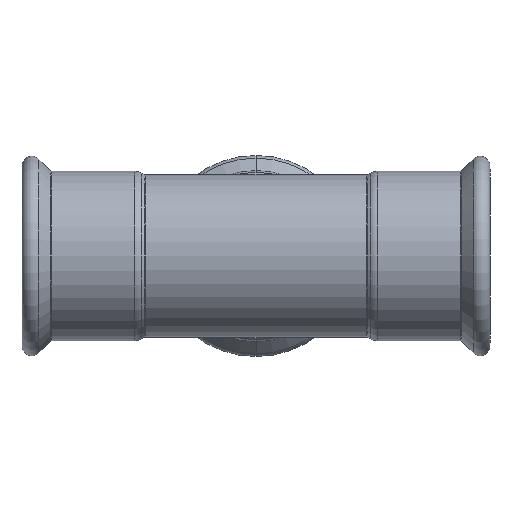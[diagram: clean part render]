
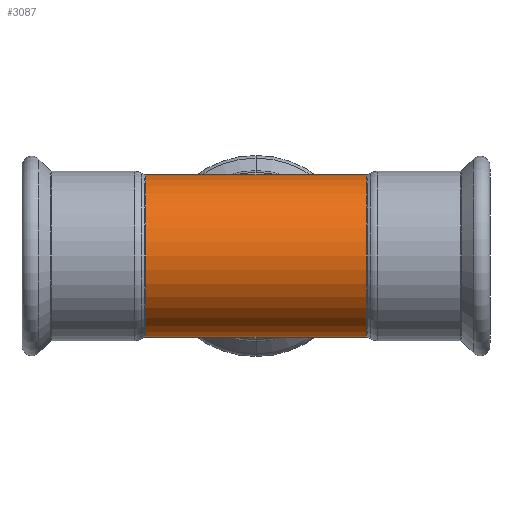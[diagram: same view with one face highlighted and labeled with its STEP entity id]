
A CAD part, front view. The second image highlights one B-rep face of the part: STEP entity #3087.
In plain terms, the highlighted cylindrical face has radius 53.5 mm (diameter 107 mm), a partial arc.
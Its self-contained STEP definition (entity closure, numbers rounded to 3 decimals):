
#218 = CYLINDRICAL_SURFACE ( 'NONE', #2594, 53.5 ) ;
#334 = ORIENTED_EDGE ( 'NONE', *, *, #3305, .F. ) ;
#471 = AXIS2_PLACEMENT_3D ( 'NONE', #561, #4330, #2248 ) ;
#529 = ORIENTED_EDGE ( 'NONE', *, *, #597, .T. ) ;
#561 = CARTESIAN_POINT ( 'NONE',  ( 72.868, 0., 0. ) ) ;
#597 = EDGE_CURVE ( 'NONE', #2084, #4043, #1712, .T. ) ;
#643 = CARTESIAN_POINT ( 'NONE',  ( 27.146, 0., 53.5 ) ) ;
#644 = VECTOR ( 'NONE', #3415, 1000. ) ;
#817 = EDGE_CURVE ( 'NONE', #2431, #853, #2016, .T. ) ;
#853 = VERTEX_POINT ( 'NONE', #4346 ) ;
#957 = DIRECTION ( 'NONE',  ( -1., 0., 0. ) ) ;
#994 = DIRECTION ( 'NONE',  ( -1., 0., 0. ) ) ;
#1430 = LINE ( 'NONE', #4091, #644 ) ;
#1468 = EDGE_CURVE ( 'NONE', #3345, #2914, #1654, .T. ) ;
#1628 = FACE_OUTER_BOUND ( 'NONE', #1914, .T. ) ;
#1644 = CARTESIAN_POINT ( 'NONE',  ( 72.868, 0., -53.5 ) ) ;
#1654 = LINE ( 'NONE', #2495, #3036 ) ;
#1712 = CIRCLE ( 'NONE', #471, 53.5 ) ;
#1780 = EDGE_CURVE ( 'NONE', #4043, #3345, #4099, .T. ) ;
#1914 = EDGE_LOOP ( 'NONE', ( #334, #529, #2159, #2549, #1939, #2761 ) ) ;
#1939 = ORIENTED_EDGE ( 'NONE', *, *, #3844, .F. ) ;
#1995 = CARTESIAN_POINT ( 'NONE',  ( 0., 0., -53.5 ) ) ;
#2016 = LINE ( 'NONE', #2341, #3480 ) ;
#2060 = DIRECTION ( 'NONE',  ( 0., 0., 1. ) ) ;
#2084 = VERTEX_POINT ( 'NONE', #1644 ) ;
#2159 = ORIENTED_EDGE ( 'NONE', *, *, #1780, .T. ) ;
#2163 = DIRECTION ( 'NONE',  ( -1., 0., 0. ) ) ;
#2248 = DIRECTION ( 'NONE',  ( 0., 0., 1. ) ) ;
#2341 = CARTESIAN_POINT ( 'NONE',  ( 27.146, 0., -53.5 ) ) ;
#2382 = DIRECTION ( 'NONE',  ( -1., 0., 0. ) ) ;
#2431 = VERTEX_POINT ( 'NONE', #1995 ) ;
#2495 = CARTESIAN_POINT ( 'NONE',  ( 27.146, 0., 53.5 ) ) ;
#2549 = ORIENTED_EDGE ( 'NONE', *, *, #1468, .T. ) ;
#2594 = AXIS2_PLACEMENT_3D ( 'NONE', #2698, #2382, #2060 ) ;
#2698 = CARTESIAN_POINT ( 'NONE',  ( 27.146, 0., 0. ) ) ;
#2761 = ORIENTED_EDGE ( 'NONE', *, *, #817, .F. ) ;
#2914 = VERTEX_POINT ( 'NONE', #3147 ) ;
#2960 = DIRECTION ( 'NONE',  ( -1., 0., 0. ) ) ;
#3036 = VECTOR ( 'NONE', #2163, 1000. ) ;
#3051 = CARTESIAN_POINT ( 'NONE',  ( 0., 0., 53.5 ) ) ;
#3087 = ADVANCED_FACE ( 'NONE', ( #1628 ), #218, .T. ) ;
#3129 = AXIS2_PLACEMENT_3D ( 'NONE', #3702, #2960, #3644 ) ;
#3147 = CARTESIAN_POINT ( 'NONE',  ( -72.868, 0., 53.5 ) ) ;
#3305 = EDGE_CURVE ( 'NONE', #2084, #2431, #1430, .T. ) ;
#3345 = VERTEX_POINT ( 'NONE', #3051 ) ;
#3397 = CARTESIAN_POINT ( 'NONE',  ( 72.868, 0., 53.5 ) ) ;
#3415 = DIRECTION ( 'NONE',  ( -1., 0., 0. ) ) ;
#3480 = VECTOR ( 'NONE', #994, 1000. ) ;
#3644 = DIRECTION ( 'NONE',  ( 0., 0., 1. ) ) ;
#3702 = CARTESIAN_POINT ( 'NONE',  ( -72.868, 0., 0. ) ) ;
#3844 = EDGE_CURVE ( 'NONE', #853, #2914, #4328, .T. ) ;
#4043 = VERTEX_POINT ( 'NONE', #3397 ) ;
#4091 = CARTESIAN_POINT ( 'NONE',  ( 27.146, 0., -53.5 ) ) ;
#4099 = LINE ( 'NONE', #643, #4310 ) ;
#4310 = VECTOR ( 'NONE', #957, 1000. ) ;
#4328 = CIRCLE ( 'NONE', #3129, 53.5 ) ;
#4330 = DIRECTION ( 'NONE',  ( -1., 0., 0. ) ) ;
#4346 = CARTESIAN_POINT ( 'NONE',  ( -72.868, 0., -53.5 ) ) ;
